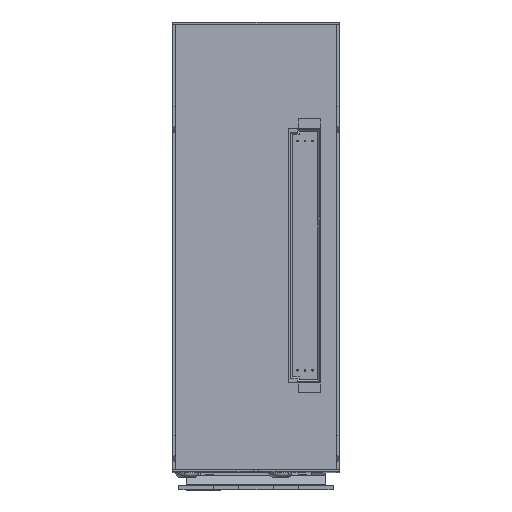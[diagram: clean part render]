
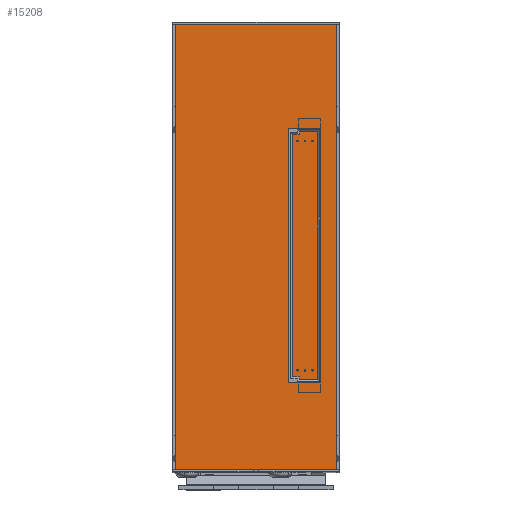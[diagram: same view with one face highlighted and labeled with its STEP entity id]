
A CAD part, top view. The second image highlights one B-rep face of the part: STEP entity #15208.
In plain terms, the highlighted planar face has unit normal (0, 0, 1).
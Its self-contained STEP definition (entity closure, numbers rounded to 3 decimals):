
#2474 = VECTOR ( 'NONE', #8969, 1000. ) ;
#7206 = DIRECTION ( 'NONE',  ( 1., 0., 0. ) ) ;
#8969 = DIRECTION ( 'NONE',  ( -1., 0., 0. ) ) ;
#9424 = CARTESIAN_POINT ( 'NONE',  ( 56.9, 153.61, 133.3 ) ) ;
#10204 = VERTEX_POINT ( 'NONE', #22280 ) ;
#11384 = LINE ( 'NONE', #21324, #77995 ) ;
#15208 = ADVANCED_FACE ( 'NONE', ( #78443 ), #32885, .T. ) ;
#15608 = ORIENTED_EDGE ( 'NONE', *, *, #51755, .T. ) ;
#16989 = CARTESIAN_POINT ( 'NONE',  ( 1.6, 1.03, 133.3 ) ) ;
#17031 = ORIENTED_EDGE ( 'NONE', *, *, #74499, .T. ) ;
#17381 = VERTEX_POINT ( 'NONE', #16989 ) ;
#19371 = VERTEX_POINT ( 'NONE', #63938 ) ;
#19642 = LINE ( 'NONE', #28227, #2474 ) ;
#21324 = CARTESIAN_POINT ( 'NONE',  ( 1.6, 153.61, 133.3 ) ) ;
#22280 = CARTESIAN_POINT ( 'NONE',  ( 56.9, 1.03, 133.3 ) ) ;
#23005 = CARTESIAN_POINT ( 'NONE',  ( 1.6, 1.03, 133.3 ) ) ;
#24578 = LINE ( 'NONE', #23005, #39761 ) ;
#28227 = CARTESIAN_POINT ( 'NONE',  ( 1.6, 153.61, 133.3 ) ) ;
#32885 = PLANE ( 'NONE',  #67952 ) ;
#36206 = LINE ( 'NONE', #9424, #51338 ) ;
#38429 = EDGE_CURVE ( 'NONE', #17381, #10204, #24578, .T. ) ;
#39087 = DIRECTION ( 'NONE',  ( 0., 0., 1. ) ) ;
#39385 = CARTESIAN_POINT ( 'NONE',  ( 0., 0., 133.3 ) ) ;
#39761 = VECTOR ( 'NONE', #61643, 1000. ) ;
#41716 = ORIENTED_EDGE ( 'NONE', *, *, #48208, .T. ) ;
#48208 = EDGE_CURVE ( 'NONE', #65229, #17381, #11384, .T. ) ;
#51338 = VECTOR ( 'NONE', #67267, 1000. ) ;
#51755 = EDGE_CURVE ( 'NONE', #19371, #65229, #19642, .T. ) ;
#56852 = EDGE_LOOP ( 'NONE', ( #41716, #78029, #17031, #15608 ) ) ;
#61643 = DIRECTION ( 'NONE',  ( 1., 0., 0. ) ) ;
#63938 = CARTESIAN_POINT ( 'NONE',  ( 56.9, 153.61, 133.3 ) ) ;
#65229 = VERTEX_POINT ( 'NONE', #69893 ) ;
#67267 = DIRECTION ( 'NONE',  ( 0., 1., 0. ) ) ;
#67952 = AXIS2_PLACEMENT_3D ( 'NONE', #39385, #39087, #7206 ) ;
#69893 = CARTESIAN_POINT ( 'NONE',  ( 1.6, 153.61, 133.3 ) ) ;
#74499 = EDGE_CURVE ( 'NONE', #10204, #19371, #36206, .T. ) ;
#77995 = VECTOR ( 'NONE', #79377, 1000. ) ;
#78029 = ORIENTED_EDGE ( 'NONE', *, *, #38429, .T. ) ;
#78443 = FACE_OUTER_BOUND ( 'NONE', #56852, .T. ) ;
#79377 = DIRECTION ( 'NONE',  ( 0., -1., 0. ) ) ;
